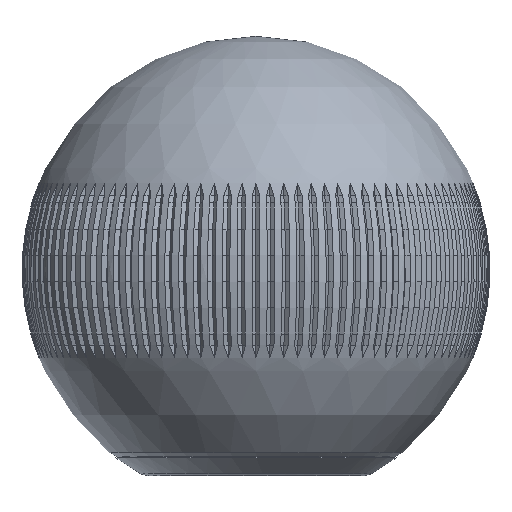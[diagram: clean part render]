
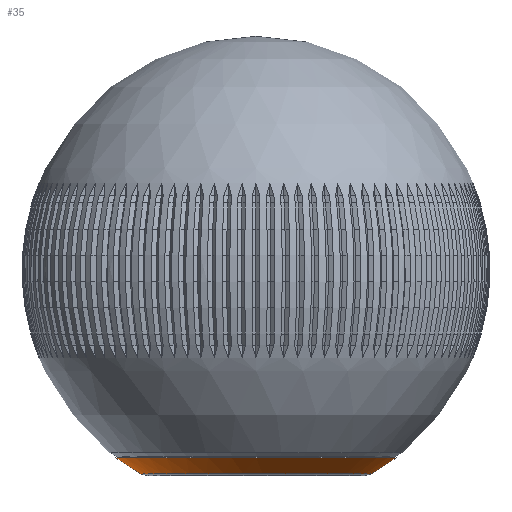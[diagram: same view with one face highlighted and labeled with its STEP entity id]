
A CAD part, left-side view. The second image highlights one B-rep face of the part: STEP entity #35.
In plain terms, the highlighted spherical face has radius 12.5 mm.
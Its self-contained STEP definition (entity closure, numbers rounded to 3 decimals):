
#35 = ADVANCED_FACE('',(#36),#51,.T.);
#36 = FACE_BOUND('',#37,.T.);
#37 = EDGE_LOOP('',(#38,#69,#165,#166));
#38 = ORIENTED_EDGE('',*,*,#39,.F.);
#39 = EDGE_CURVE('',#40,#42,#44,.T.);
#40 = VERTEX_POINT('',#41);
#41 = CARTESIAN_POINT('',(6.175,0.,0.097));
#42 = VERTEX_POINT('',#43);
#43 = CARTESIAN_POINT('',(7.482,0.,
    0.952));
#44 = SEAM_CURVE('',#45,(#50,#62),.PCURVE_S1.);
#45 = CIRCLE('',#46,12.5);
#46 = AXIS2_PLACEMENT_3D('',#47,#48,#49);
#47 = CARTESIAN_POINT('',(0.,0.,10.966));
#48 = DIRECTION('',(0.,-1.,0.));
#49 = DIRECTION('',(1.,0.,0.));
#50 = PCURVE('',#51,#56);
#51 = SPHERICAL_SURFACE('',#52,12.5);
#52 = AXIS2_PLACEMENT_3D('',#53,#54,#55);
#53 = CARTESIAN_POINT('',(0.,0.,10.966));
#54 = DIRECTION('',(0.,0.,1.));
#55 = DIRECTION('',(1.,0.,-0.));
#56 = DEFINITIONAL_REPRESENTATION('',(#57),#61);
#57 = LINE('',#58,#59);
#58 = CARTESIAN_POINT('',(0.,-6.283));
#59 = VECTOR('',#60,1.);
#60 = DIRECTION('',(0.,1.));
#61 = ( GEOMETRIC_REPRESENTATION_CONTEXT(2) 
PARAMETRIC_REPRESENTATION_CONTEXT() REPRESENTATION_CONTEXT('2D SPACE',''
  ) );
#62 = PCURVE('',#51,#63);
#63 = DEFINITIONAL_REPRESENTATION('',(#64),#68);
#64 = LINE('',#65,#66);
#65 = CARTESIAN_POINT('',(6.283,-6.283));
#66 = VECTOR('',#67,1.);
#67 = DIRECTION('',(0.,1.));
#68 = ( GEOMETRIC_REPRESENTATION_CONTEXT(2) 
PARAMETRIC_REPRESENTATION_CONTEXT() REPRESENTATION_CONTEXT('2D SPACE',''
  ) );
#69 = ORIENTED_EDGE('',*,*,#70,.T.);
#70 = EDGE_CURVE('',#40,#40,#71,.T.);
#71 = SURFACE_CURVE('',#72,(#93,#117),.PCURVE_S1.);
#72 = B_SPLINE_CURVE_WITH_KNOTS('',10,(#73,#74,#75,#76,#77,#78,#79,#80,
    #81,#82,#83,#84,#85,#86,#87,#88,#89,#90,#91,#92),.UNSPECIFIED.,.T.,
  .F.,(11,9,11),(0.,18.85,37.699),
  .UNSPECIFIED.);
#73 = CARTESIAN_POINT('',(6.175,0.,0.097));
#74 = CARTESIAN_POINT('',(6.175,1.912,
    0.097));
#75 = CARTESIAN_POINT('',(5.517,3.853,
    0.097));
#76 = CARTESIAN_POINT('',(4.169,5.55,
    0.097));
#77 = CARTESIAN_POINT('',(2.235,6.706,
    0.097));
#78 = CARTESIAN_POINT('',(-0.002,7.1,
    0.097));
#79 = CARTESIAN_POINT('',(-2.23,6.697,
    0.097));
#80 = CARTESIAN_POINT('',(-4.144,5.553,
    0.097));
#81 = CARTESIAN_POINT('',(-5.497,3.88,
    0.097));
#82 = CARTESIAN_POINT('',(-6.175,1.94,
    0.097));
#83 = CARTESIAN_POINT('',(-6.175,-1.94,
    0.097));
#84 = CARTESIAN_POINT('',(-5.497,-3.88,
    0.097));
#85 = CARTESIAN_POINT('',(-4.144,-5.553,
    0.097));
#86 = CARTESIAN_POINT('',(-2.23,-6.697,
    0.097));
#87 = CARTESIAN_POINT('',(-0.002,-7.1,
    0.097));
#88 = CARTESIAN_POINT('',(2.235,-6.706,
    0.097));
#89 = CARTESIAN_POINT('',(4.169,-5.55,
    0.097));
#90 = CARTESIAN_POINT('',(5.517,-3.853,
    0.097));
#91 = CARTESIAN_POINT('',(6.175,-1.912,
    0.097));
#92 = CARTESIAN_POINT('',(6.175,0.,
    0.097));
#93 = PCURVE('',#51,#94);
#94 = DEFINITIONAL_REPRESENTATION('',(#95),#116);
#95 = B_SPLINE_CURVE_WITH_KNOTS('',10,(#96,#97,#98,#99,#100,#101,#102,
    #103,#104,#105,#106,#107,#108,#109,#110,#111,#112,#113,#114,#115),
  .UNSPECIFIED.,.F.,.F.,(11,9,11),(0.,18.85,
    37.699),.UNSPECIFIED.);
#96 = CARTESIAN_POINT('',(0.,-1.054));
#97 = CARTESIAN_POINT('',(0.31,-1.054));
#98 = CARTESIAN_POINT('',(0.624,-1.054));
#99 = CARTESIAN_POINT('',(0.94,-1.054));
#100 = CARTESIAN_POINT('',(1.256,-1.054));
#101 = CARTESIAN_POINT('',(1.571,-1.054));
#102 = CARTESIAN_POINT('',(1.885,-1.054));
#103 = CARTESIAN_POINT('',(2.199,-1.054));
#104 = CARTESIAN_POINT('',(2.513,-1.054));
#105 = CARTESIAN_POINT('',(2.827,-1.054));
#106 = CARTESIAN_POINT('',(3.456,-1.054));
#107 = CARTESIAN_POINT('',(3.77,-1.054));
#108 = CARTESIAN_POINT('',(4.084,-1.054));
#109 = CARTESIAN_POINT('',(4.398,-1.054));
#110 = CARTESIAN_POINT('',(4.713,-1.054));
#111 = CARTESIAN_POINT('',(5.027,-1.054));
#112 = CARTESIAN_POINT('',(5.343,-1.054));
#113 = CARTESIAN_POINT('',(5.659,-1.054));
#114 = CARTESIAN_POINT('',(5.974,-1.054));
#115 = CARTESIAN_POINT('',(6.283,-1.054));
#116 = ( GEOMETRIC_REPRESENTATION_CONTEXT(2) 
PARAMETRIC_REPRESENTATION_CONTEXT() REPRESENTATION_CONTEXT('2D SPACE',''
  ) );
#117 = PCURVE('',#118,#159);
#118 = B_SPLINE_SURFACE_WITH_KNOTS('',1,10,(
    (#119,#120,#121,#122,#123,#124,#125,#126,#127,#128,#129,#130,#131
      ,#132,#133,#134,#135,#136,#137,#138)
    ,(#139,#140,#141,#142,#143,#144,#145,#146,#147,#148,#149,#150,#151
      ,#152,#153,#154,#155,#156,#157,#158
    )),.UNSPECIFIED.,.F.,.T.,.F.,(2,2),(11,9,11),(0.,37.699),(
    0.,18.85,37.699),.UNSPECIFIED.);
#119 = CARTESIAN_POINT('',(6.175,0.,0.097));
#120 = CARTESIAN_POINT('',(6.175,1.912,
    0.097));
#121 = CARTESIAN_POINT('',(5.517,3.853,
    0.097));
#122 = CARTESIAN_POINT('',(4.169,5.55,
    0.097));
#123 = CARTESIAN_POINT('',(2.235,6.706,
    0.097));
#124 = CARTESIAN_POINT('',(-0.002,7.1,
    0.097));
#125 = CARTESIAN_POINT('',(-2.23,6.697,
    0.097));
#126 = CARTESIAN_POINT('',(-4.144,5.553,
    0.097));
#127 = CARTESIAN_POINT('',(-5.497,3.88,
    0.097));
#128 = CARTESIAN_POINT('',(-6.175,1.94,
    0.097));
#129 = CARTESIAN_POINT('',(-6.175,-1.94,
    0.097));
#130 = CARTESIAN_POINT('',(-5.497,-3.88,
    0.097));
#131 = CARTESIAN_POINT('',(-4.144,-5.553,
    0.097));
#132 = CARTESIAN_POINT('',(-2.23,-6.697,
    0.097));
#133 = CARTESIAN_POINT('',(-0.002,-7.1,
    0.097));
#134 = CARTESIAN_POINT('',(2.235,-6.706,
    0.097));
#135 = CARTESIAN_POINT('',(4.169,-5.55,
    0.097));
#136 = CARTESIAN_POINT('',(5.517,-3.853,
    0.097));
#137 = CARTESIAN_POINT('',(6.175,-1.912,
    0.097));
#138 = CARTESIAN_POINT('',(6.175,0.,
    0.097));
#139 = CARTESIAN_POINT('',(5.8,0.,0.));
#140 = CARTESIAN_POINT('',(5.8,1.796,0.));
#141 = CARTESIAN_POINT('',(5.182,3.619,0.));
#142 = CARTESIAN_POINT('',(3.916,5.213,0.));
#143 = CARTESIAN_POINT('',(2.1,6.299,0.));
#144 = CARTESIAN_POINT('',(-0.002,6.67,0.));
#145 = CARTESIAN_POINT('',(-2.095,6.291,0.));
#146 = CARTESIAN_POINT('',(-3.892,5.216,0.));
#147 = CARTESIAN_POINT('',(-5.164,3.644,0.));
#148 = CARTESIAN_POINT('',(-5.8,1.822,0.));
#149 = CARTESIAN_POINT('',(-5.8,-1.822,0.));
#150 = CARTESIAN_POINT('',(-5.164,-3.644,0.));
#151 = CARTESIAN_POINT('',(-3.892,-5.216,0.));
#152 = CARTESIAN_POINT('',(-2.095,-6.291,0.));
#153 = CARTESIAN_POINT('',(-0.002,-6.67,0.));
#154 = CARTESIAN_POINT('',(2.1,-6.299,0.));
#155 = CARTESIAN_POINT('',(3.916,-5.213,0.));
#156 = CARTESIAN_POINT('',(5.182,-3.619,0.));
#157 = CARTESIAN_POINT('',(5.8,-1.796,0.));
#158 = CARTESIAN_POINT('',(5.8,0.,0.));
#159 = DEFINITIONAL_REPRESENTATION('',(#160),#164);
#160 = LINE('',#161,#162);
#161 = CARTESIAN_POINT('',(0.,0.));
#162 = VECTOR('',#163,1.);
#163 = DIRECTION('',(0.,1.));
#164 = ( GEOMETRIC_REPRESENTATION_CONTEXT(2) 
PARAMETRIC_REPRESENTATION_CONTEXT() REPRESENTATION_CONTEXT('2D SPACE',''
  ) );
#165 = ORIENTED_EDGE('',*,*,#39,.T.);
#166 = ORIENTED_EDGE('',*,*,#167,.F.);
#167 = EDGE_CURVE('',#42,#42,#168,.T.);
#168 = SURFACE_CURVE('',#169,(#174,#181),.PCURVE_S1.);
#169 = CIRCLE('',#170,7.482);
#170 = AXIS2_PLACEMENT_3D('',#171,#172,#173);
#171 = CARTESIAN_POINT('',(0.,0.,0.952));
#172 = DIRECTION('',(0.,0.,1.));
#173 = DIRECTION('',(0.,-1.,0.));
#174 = PCURVE('',#51,#175);
#175 = DEFINITIONAL_REPRESENTATION('',(#176),#180);
#176 = LINE('',#177,#178);
#177 = CARTESIAN_POINT('',(-1.571,-0.929));
#178 = VECTOR('',#179,1.);
#179 = DIRECTION('',(1.,0.));
#180 = ( GEOMETRIC_REPRESENTATION_CONTEXT(2) 
PARAMETRIC_REPRESENTATION_CONTEXT() REPRESENTATION_CONTEXT('2D SPACE',''
  ) );
#181 = PCURVE('',#182,#187);
#182 = CONICAL_SURFACE('',#183,7.845,1.064);
#183 = AXIS2_PLACEMENT_3D('',#184,#185,#186);
#184 = CARTESIAN_POINT('',(0.,0.,0.75));
#185 = DIRECTION('',(-0.,-0.,-1.));
#186 = DIRECTION('',(1.,0.,-0.));
#187 = DEFINITIONAL_REPRESENTATION('',(#188),#192);
#188 = LINE('',#189,#190);
#189 = CARTESIAN_POINT('',(1.571,-0.202));
#190 = VECTOR('',#191,1.);
#191 = DIRECTION('',(-1.,-0.));
#192 = ( GEOMETRIC_REPRESENTATION_CONTEXT(2) 
PARAMETRIC_REPRESENTATION_CONTEXT() REPRESENTATION_CONTEXT('2D SPACE',''
  ) );
